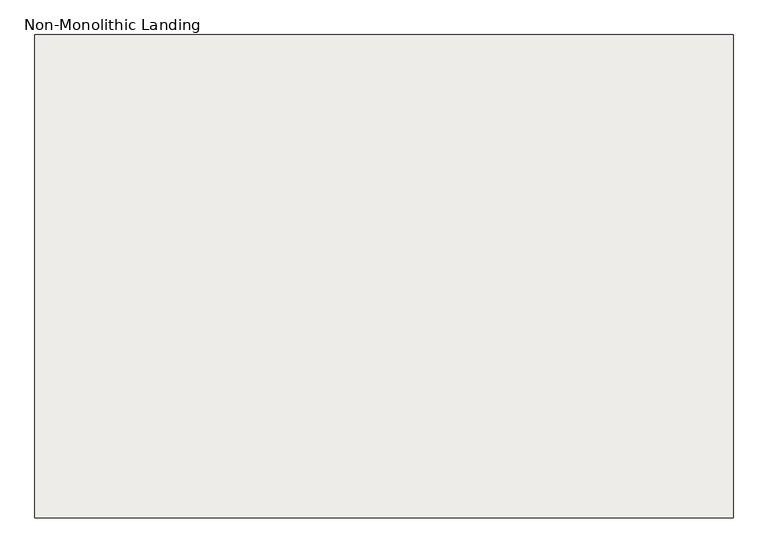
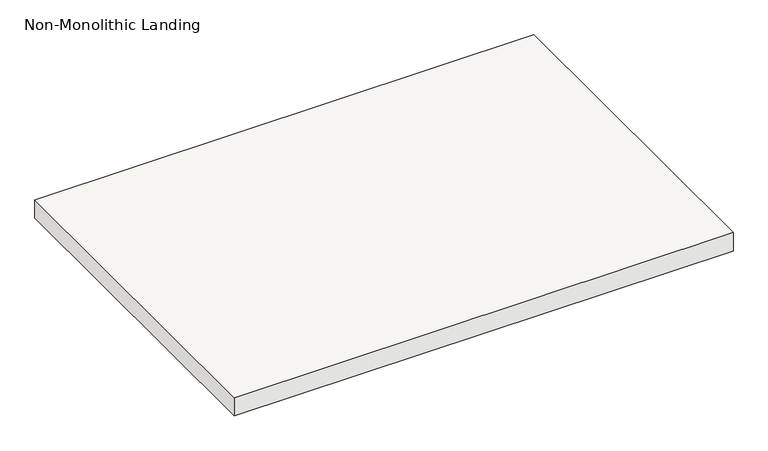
"""IFC4 building model written with IfcOpenShell, lengths in millimetres: slab geometry, Non-Monolithic Landing."""

from ifc_helpers import new_model, si_unit, frame, origin, place, context, project, spatial, polyline, outline, extrude, source, transform, mapped, element, save


def non_monolithic_landing_72e1c1c6(model_context):
    return source(origin(), model_context, "Body", "SweptSolid", [
        extrude(outline(polyline([(161298.0311068, -17954.2990002), (162618.8311068, -17954.2990002), (162618.8311068, -18868.6990002), (161298.0311068, -18868.6990002), (161298.0311068, -17954.2990002)])), frame((0.0, 0.0, 2126.3428571), z_axis=(0.0, 0.0, 1.0), x_axis=(1.0, 0.0, 0.0)), (0.0, 0.0, 1.0), 50.8),
    ])


if __name__ == "__main__":
    model = new_model("IFC4")
    model_context = context("Model", 3, world=origin())
    ifc_project = project(units=[si_unit("LENGTHUNIT", "METRE", prefix="MILLI")], contexts=[model_context])
    site = spatial("IfcSite", under=ifc_project)
    building = spatial("IfcBuilding", under=site)
    placement = place(None, origin())
    non_monolithic_landing_shape = non_monolithic_landing_72e1c1c6(model_context)
    element("IfcSlab", 1, ObjectType="Non-Monolithic Landing", at=placement, inside=building, context=model_context, shape_type="MappedRepresentation", body=[
        mapped(non_monolithic_landing_shape, transform((0.0, 0.0, 0.0), x_axis=(1.0, 0.0, 0.0), y_axis=(0.0, 1.0, 0.0), z_axis=(0.0, 0.0, 1.0))),
    ])
    save(model, "model.ifc")
